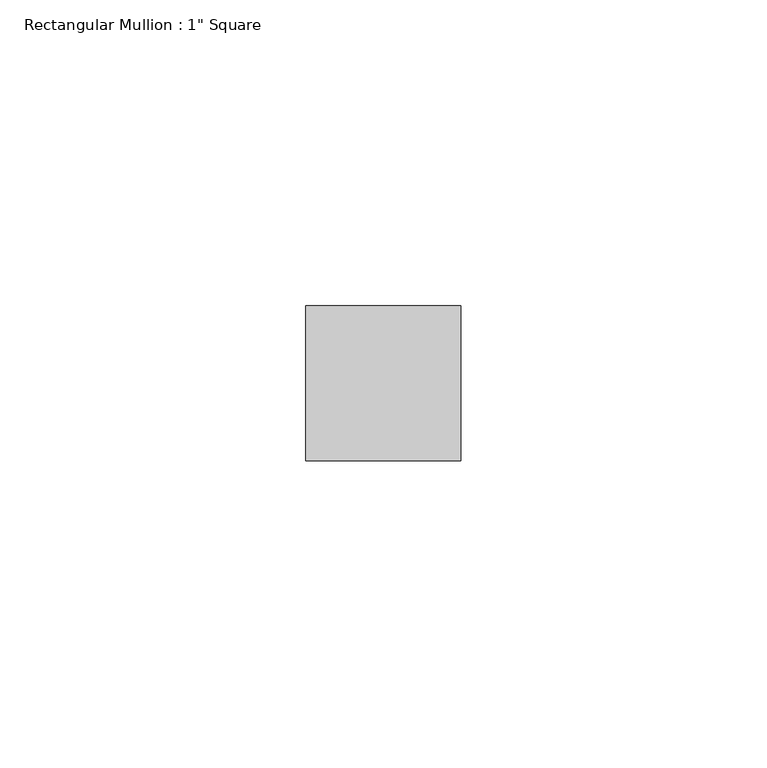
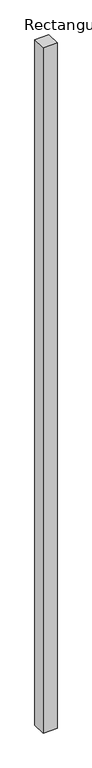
"""IFC4 building model written with IfcOpenShell, lengths in millimetres: member geometry."""

from ifc_helpers import new_model, si_unit, frame, origin, place, context, project, spatial, polyline, outline, extrude, source, transform, mapped, element, save


def member_5c79e99c(model_context):
    return source(origin(), model_context, "Body", "SweptSolid", [
        extrude(outline(polyline([(12.7, 12.7), (12.7, -12.7), (-12.7, -12.7), (-12.7, 12.7), (12.7, 12.7)])), frame((0.0, 0.0, -1313.4997294), z_axis=(0.0, 0.0, 1.0), x_axis=(1.0, 0.0, 0.0)), (0.0, 0.0, 1.0), 1313.4997294),
    ])


if __name__ == "__main__":
    model = new_model("IFC4")
    model_context = context("Model", 3, world=origin())
    ifc_project = project(units=[si_unit("LENGTHUNIT", "METRE", prefix="MILLI")], contexts=[model_context])
    site = spatial("IfcSite", under=ifc_project)
    building = spatial("IfcBuilding", under=site)
    placement = place(None, origin())
    member_shape = member_5c79e99c(model_context)
    element("IfcMember", 1, ObjectType="Rectangular Mullion : 1\" Square", at=placement, inside=building, context=model_context, shape_type="MappedRepresentation", body=[
        mapped(member_shape, transform((0.0, 0.0, 0.0), x_axis=(1.0, 0.0, 0.0), y_axis=(0.0, 1.0, 0.0), z_axis=(0.0, 0.0, 1.0))),
    ])
    save(model, "model.ifc")
